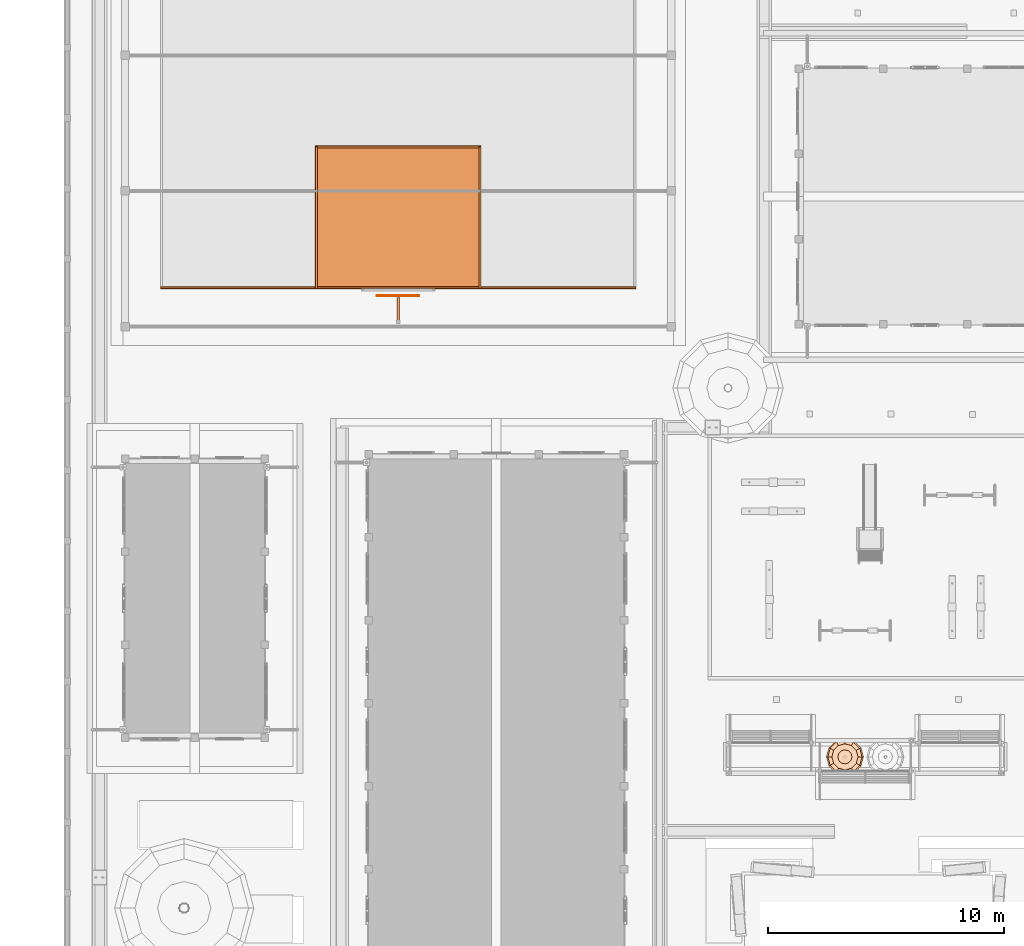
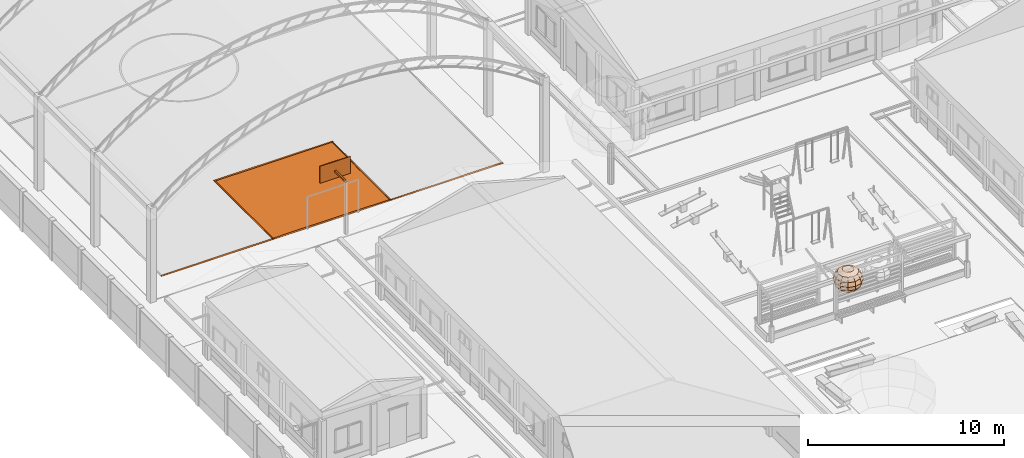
# One storey, part 166 of 177: 7 proxies, 1 geographic element.
"""IFC4 building model written with IfcOpenShell, lengths in metres."""

from ifc_helpers import new_model, si_unit, origin, origin_with_axes, place, context, subcontext, project, spatial, triangles, element, save


model = new_model("IFC4")

# Units and contexts
model_context = context("Model", 3, precision=1e-05, world=origin_with_axes())
body_context = subcontext(model_context, "Body", "Model", "MODEL_VIEW")
ifc_project = project(units=[si_unit("LENGTHUNIT", "METRE"), si_unit("AREAUNIT", "SQUARE_METRE"), si_unit("VOLUMEUNIT", "CUBIC_METRE"), si_unit("PLANEANGLEUNIT", "RADIAN")], contexts=[model_context])

# Site, building, storey
site_placement = place(None, origin_with_axes())
site = spatial("IfcSite", under=ifc_project, at=site_placement, Name="Predio Los Mangos - Morales, San Martín", CompositionType="ELEMENT")
building_placement = place(site_placement, origin())
building = spatial("IfcBuilding", under=site, at=building_placement, Name="Hogar de Refugio Temporal", CompositionType="ELEMENT")
storey_placement = place(building_placement, origin())
storey = spatial("IfcBuildingStorey", under=building, at=storey_placement, Name="NIVEL 1 (NPT +0.00)", CompositionType="ELEMENT", Elevation=0.0)

# Proxies
proxy_1_placement = place(storey_placement, origin())
element("IfcBuildingElementProxy", 1, at=proxy_1_placement, inside=storey, Name="linea_cancha", ObjectType="Losa deportiva y vía", PredefinedType="NOTDEFINED", context=body_context, shape_type="Tessellation", body=[
    triangles([(5.0, 94.2, 0.125), (25.1, 94.2, 0.125), (25.1, 94.28, 0.125), (5.0, 94.28, 0.125), (5.0, 94.2, 0.127), (25.1, 94.2, 0.127), (25.1, 94.28, 0.127), (5.0, 94.28, 0.127)], [[1, 4, 3], [1, 3, 2], [5, 6, 7], [5, 7, 8], [1, 2, 6], [1, 6, 5], [2, 3, 7], [2, 7, 6], [3, 4, 8], [3, 8, 7], [4, 1, 5], [4, 5, 8]]),
])
proxy_2_placement = place(storey_placement, origin())
element("IfcBuildingElementProxy", 2, at=proxy_2_placement, inside=storey, Name="area", ObjectType="Losa deportiva y vía", PredefinedType="NOTDEFINED", context=body_context, shape_type="Tessellation", body=[
    triangles([(11.55, 94.2, 0.125), (18.55, 94.2, 0.125), (18.55, 100.2, 0.125), (11.55, 100.2, 0.125), (11.55, 94.2, 0.127), (18.55, 94.2, 0.127), (18.55, 100.2, 0.127), (11.55, 100.2, 0.127)], [[1, 4, 3], [1, 3, 2], [5, 6, 7], [5, 7, 8], [1, 2, 6], [1, 6, 5], [2, 3, 7], [2, 7, 6], [3, 4, 8], [3, 8, 7], [4, 1, 5], [4, 5, 8]]),
])
proxy_3_placement = place(storey_placement, origin())
element("IfcBuildingElementProxy", 3, at=proxy_3_placement, inside=storey, Name="linea_area", ObjectType="Losa deportiva y vía", PredefinedType="NOTDEFINED", context=body_context, shape_type="Tessellation", body=[
    triangles([(11.55, 94.2, 0.127), (11.63, 94.2, 0.127), (11.63, 100.2, 0.127), (11.55, 100.2, 0.127), (11.55, 94.2, 0.129), (11.63, 94.2, 0.129), (11.63, 100.2, 0.129), (11.55, 100.2, 0.129)], [[1, 4, 3], [1, 3, 2], [5, 6, 7], [5, 7, 8], [1, 2, 6], [1, 6, 5], [2, 3, 7], [2, 7, 6], [3, 4, 8], [3, 8, 7], [4, 1, 5], [4, 5, 8]]),
])
proxy_4_placement = place(storey_placement, origin())
element("IfcBuildingElementProxy", 4, at=proxy_4_placement, inside=storey, Name="linea_area", ObjectType="Losa deportiva y vía", PredefinedType="NOTDEFINED", context=body_context, shape_type="Tessellation", body=[
    triangles([(18.47, 94.2, 0.127), (18.55, 94.2, 0.127), (18.55, 100.2, 0.127), (18.47, 100.2, 0.127), (18.47, 94.2, 0.129), (18.55, 94.2, 0.129), (18.55, 100.2, 0.129), (18.47, 100.2, 0.129)], [[1, 4, 3], [1, 3, 2], [5, 6, 7], [5, 7, 8], [1, 2, 6], [1, 6, 5], [2, 3, 7], [2, 7, 6], [3, 4, 8], [3, 8, 7], [4, 1, 5], [4, 5, 8]]),
])
proxy_5_placement = place(storey_placement, origin())
element("IfcBuildingElementProxy", 5, at=proxy_5_placement, inside=storey, Name="linea_area", ObjectType="Losa deportiva y vía", PredefinedType="NOTDEFINED", context=body_context, shape_type="Tessellation", body=[
    triangles([(11.55, 100.16, 0.127), (18.55, 100.16, 0.127), (18.55, 100.24, 0.127), (11.55, 100.24, 0.127), (11.55, 100.16, 0.129), (18.55, 100.16, 0.129), (18.55, 100.24, 0.129), (11.55, 100.24, 0.129)], [[1, 4, 3], [1, 3, 2], [5, 6, 7], [5, 7, 8], [1, 2, 6], [1, 6, 5], [2, 3, 7], [2, 7, 6], [3, 4, 8], [3, 8, 7], [4, 1, 5], [4, 5, 8]]),
])
proxy_6_placement = place(storey_placement, origin())
element("IfcBuildingElementProxy", 6, at=proxy_6_placement, inside=storey, Name="tablero", ObjectType="Losa deportiva y vía", PredefinedType="NOTDEFINED", context=body_context, shape_type="Tessellation", body=[
    triangles([(14.15, 93.88, 2.9), (15.95, 93.88, 2.9), (15.95, 93.92, 2.9), (14.15, 93.92, 2.9), (14.15, 93.88, 3.95), (15.95, 93.88, 3.95), (15.95, 93.92, 3.95), (14.15, 93.92, 3.95)], [[1, 4, 3], [1, 3, 2], [5, 6, 7], [5, 7, 8], [1, 2, 6], [1, 6, 5], [2, 3, 7], [2, 7, 6], [3, 4, 8], [3, 8, 7], [4, 1, 5], [4, 5, 8]]),
])
proxy_7_placement = place(storey_placement, origin())
element("IfcBuildingElementProxy", 7, at=proxy_7_placement, inside=storey, Name="brazo", ObjectType="Losa deportiva y vía", PredefinedType="NOTDEFINED", context=body_context, shape_type="Tessellation", body=[
    triangles([(15.0, 92.8, 3.3), (15.1, 92.8, 3.3), (15.1, 93.9, 3.3), (15.0, 93.9, 3.3), (15.0, 92.8, 3.4), (15.1, 92.8, 3.4), (15.1, 93.9, 3.4), (15.0, 93.9, 3.4)], [[1, 4, 3], [1, 3, 2], [5, 6, 7], [5, 7, 8], [1, 2, 6], [1, 6, 5], [2, 3, 7], [2, 7, 6], [3, 4, 8], [3, 8, 7], [4, 1, 5], [4, 5, 8]]),
])

# Geographic element
geographic_element_placement = place(storey_placement, origin())
element("IfcGeographicElement", 8, at=geographic_element_placement, inside=storey, Name="arbol_copa", ObjectType="Árbol", PredefinedType="NOTDEFINED", context=body_context, shape_type="Tessellation", body=[
    triangles([(33.945, 74.4, 2.5172), (33.945, 74.4, 2.5172), (33.945, 74.4, 2.5172), (33.945, 74.4, 2.5172), (33.945, 74.4, 2.5172), (33.945, 74.4, 2.5172), (33.945, 74.4, 2.5172), (33.945, 74.4, 2.5172), (33.945, 74.4, 2.5172), (33.945, 74.4, 2.5172), (33.945, 74.4, 2.5172), (33.945, 74.4, 2.5172), (34.2443, 74.4, 2.4666), (34.2042, 74.5496, 2.4666), (34.0946, 74.6592, 2.4666), (33.945, 74.6993, 2.4666), (33.7954, 74.6592, 2.4666), (33.6858, 74.5496, 2.4666), (33.6457, 74.4, 2.4666), (33.6858, 74.2504, 2.4666), (33.7954, 74.1408, 2.4666), (33.945, 74.1007, 2.4666), (34.0946, 74.1408, 2.4666), (34.2042, 74.2504, 2.4666), (34.498, 74.4, 2.3225), (34.4239, 74.6765, 2.3225), (34.2215, 74.8789, 2.3225), (33.945, 74.953, 2.3225), (33.6685, 74.8789, 2.3225), (33.4661, 74.6765, 2.3225), (33.392, 74.4, 2.3225), (33.4661, 74.1235, 2.3225), (33.6685, 73.9211, 2.3225), (33.945, 73.847, 2.3225), (34.2215, 73.9211, 2.3225), (34.4239, 74.1235, 2.3225), (34.6675, 74.4, 2.1069), (34.5707, 74.7612, 2.1069), (34.3062, 75.0257, 2.1069), (33.945, 75.1225, 2.1069), (33.5838, 75.0257, 2.1069), (33.3193, 74.7612, 2.1069), (33.2225, 74.4, 2.1069), (33.3193, 74.0388, 2.1069), (33.5838, 73.7743, 2.1069), (33.945, 73.6775, 2.1069), (34.3062, 73.7743, 2.1069), (34.5707, 74.0388, 2.1069), (34.727, 74.4, 1.8525), (34.6222, 74.791, 1.8525), (34.336, 75.0772, 1.8525), (33.945, 75.182, 1.8525), (33.554, 75.0772, 1.8525), (33.2678, 74.791, 1.8525), (33.163, 74.4, 1.8525), (33.2678, 74.009, 1.8525), (33.554, 73.7228, 1.8525), (33.945, 73.618, 1.8525), (34.336, 73.7228, 1.8525), (34.6222, 74.009, 1.8525), (34.6675, 74.4, 1.5981), (34.5707, 74.7612, 1.5981), (34.3062, 75.0257, 1.5981), (33.945, 75.1225, 1.5981), (33.5838, 75.0257, 1.5981), (33.3193, 74.7612, 1.5981), (33.2225, 74.4, 1.5981), (33.3193, 74.0388, 1.5981), (33.5838, 73.7743, 1.5981), (33.945, 73.6775, 1.5981), (34.3062, 73.7743, 1.5981), (34.5707, 74.0388, 1.5981), (34.498, 74.4, 1.3825), (34.4239, 74.6765, 1.3825), (34.2215, 74.8789, 1.3825), (33.945, 74.953, 1.3825), (33.6685, 74.8789, 1.3825), (33.4661, 74.6765, 1.3825), (33.392, 74.4, 1.3825), (33.4661, 74.1235, 1.3825), (33.6685, 73.9211, 1.3825), (33.945, 73.847, 1.3825), (34.2215, 73.9211, 1.3825), (34.4239, 74.1235, 1.3825), (34.2443, 74.4, 1.2384), (34.2042, 74.5496, 1.2384), (34.0946, 74.6592, 1.2384), (33.945, 74.6993, 1.2384), (33.7954, 74.6592, 1.2384), (33.6858, 74.5496, 1.2384), (33.6457, 74.4, 1.2384), (33.6858, 74.2504, 1.2384), (33.7954, 74.1408, 1.2384), (33.945, 74.1007, 1.2384), (34.0946, 74.1408, 1.2384), (34.2042, 74.2504, 1.2384), (33.945, 74.4, 1.1878), (33.945, 74.4, 1.1878), (33.945, 74.4, 1.1878), (33.945, 74.4, 1.1878), (33.945, 74.4, 1.1878), (33.945, 74.4, 1.1878), (33.945, 74.4, 1.1878), (33.945, 74.4, 1.1878), (33.945, 74.4, 1.1878), (33.945, 74.4, 1.1878), (33.945, 74.4, 1.1878), (33.945, 74.4, 1.1878)], [[1, 2, 14], [1, 14, 13], [2, 3, 15], [2, 15, 14], [3, 4, 16], [3, 16, 15], [4, 5, 17], [4, 17, 16], [5, 6, 18], [5, 18, 17], [6, 7, 19], [6, 19, 18], [7, 8, 20], [7, 20, 19], [8, 9, 21], [8, 21, 20], [9, 10, 22], [9, 22, 21], [10, 11, 23], [10, 23, 22], [11, 12, 24], [11, 24, 23], [12, 1, 13], [12, 13, 24], [13, 14, 26], [13, 26, 25], [14, 15, 27], [14, 27, 26], [15, 16, 28], [15, 28, 27], [16, 17, 29], [16, 29, 28], [17, 18, 30], [17, 30, 29], [18, 19, 31], [18, 31, 30], [19, 20, 32], [19, 32, 31], [20, 21, 33], [20, 33, 32], [21, 22, 34], [21, 34, 33], [22, 23, 35], [22, 35, 34], [23, 24, 36], [23, 36, 35], [24, 13, 25], [24, 25, 36], [25, 26, 38], [25, 38, 37], [26, 27, 39], [26, 39, 38], [27, 28, 40], [27, 40, 39], [28, 29, 41], [28, 41, 40], [29, 30, 42], [29, 42, 41], [30, 31, 43], [30, 43, 42], [31, 32, 44], [31, 44, 43], [32, 33, 45], [32, 45, 44], [33, 34, 46], [33, 46, 45], [34, 35, 47], [34, 47, 46], [35, 36, 48], [35, 48, 47], [36, 25, 37], [36, 37, 48], [37, 38, 50], [37, 50, 49], [38, 39, 51], [38, 51, 50], [39, 40, 52], [39, 52, 51], [40, 41, 53], [40, 53, 52], [41, 42, 54], [41, 54, 53], [42, 43, 55], [42, 55, 54], [43, 44, 56], [43, 56, 55], [44, 45, 57], [44, 57, 56], [45, 46, 58], [45, 58, 57], [46, 47, 59], [46, 59, 58], [47, 48, 60], [47, 60, 59], [48, 37, 49], [48, 49, 60], [49, 50, 62], [49, 62, 61], [50, 51, 63], [50, 63, 62], [51, 52, 64], [51, 64, 63], [52, 53, 65], [52, 65, 64], [53, 54, 66], [53, 66, 65], [54, 55, 67], [54, 67, 66], [55, 56, 68], [55, 68, 67], [56, 57, 69], [56, 69, 68], [57, 58, 70], [57, 70, 69], [58, 59, 71], [58, 71, 70], [59, 60, 72], [59, 72, 71], [60, 49, 61], [60, 61, 72], [61, 62, 74], [61, 74, 73], [62, 63, 75], [62, 75, 74], [63, 64, 76], [63, 76, 75], [64, 65, 77], [64, 77, 76], [65, 66, 78], [65, 78, 77], [66, 67, 79], [66, 79, 78], [67, 68, 80], [67, 80, 79], [68, 69, 81], [68, 81, 80], [69, 70, 82], [69, 82, 81], [70, 71, 83], [70, 83, 82], [71, 72, 84], [71, 84, 83], [72, 61, 73], [72, 73, 84], [73, 74, 86], [73, 86, 85], [74, 75, 87], [74, 87, 86], [75, 76, 88], [75, 88, 87], [76, 77, 89], [76, 89, 88], [77, 78, 90], [77, 90, 89], [78, 79, 91], [78, 91, 90], [79, 80, 92], [79, 92, 91], [80, 81, 93], [80, 93, 92], [81, 82, 94], [81, 94, 93], [82, 83, 95], [82, 95, 94], [83, 84, 96], [83, 96, 95], [84, 73, 85], [84, 85, 96], [85, 86, 98], [85, 98, 97], [86, 87, 99], [86, 99, 98], [87, 88, 100], [87, 100, 99], [88, 89, 101], [88, 101, 100], [89, 90, 102], [89, 102, 101], [90, 91, 103], [90, 103, 102], [91, 92, 104], [91, 104, 103], [92, 93, 105], [92, 105, 104], [93, 94, 106], [93, 106, 105], [94, 95, 107], [94, 107, 106], [95, 96, 108], [95, 108, 107], [96, 85, 97], [96, 97, 108]]),
])

save(model, "model.ifc")
